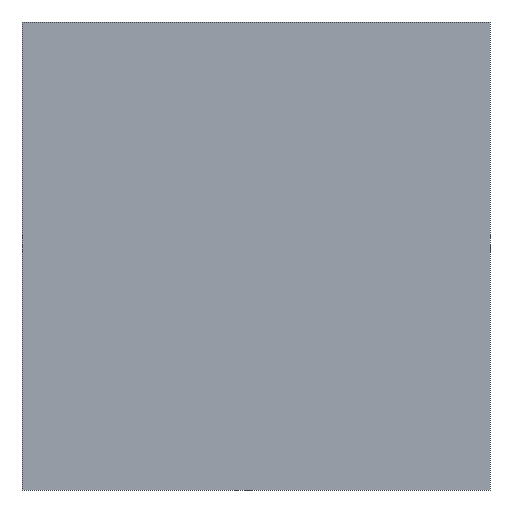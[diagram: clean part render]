
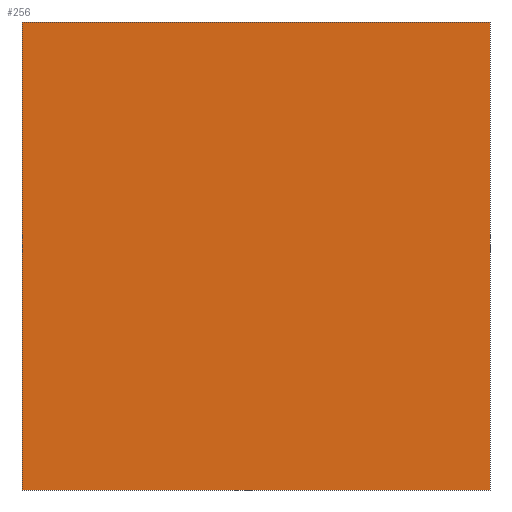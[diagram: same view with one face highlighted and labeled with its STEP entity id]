
A CAD part, front view. The second image highlights one B-rep face of the part: STEP entity #256.
In plain terms, the highlighted planar face has unit normal (0, -1, 0).
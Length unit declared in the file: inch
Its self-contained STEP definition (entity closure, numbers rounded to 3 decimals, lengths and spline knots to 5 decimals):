
#30=FACE_OUTER_BOUND('',#46,.T.);
#46=EDGE_LOOP('',(#223,#224,#225,#226));
#67=LINE('',#395,#99);
#71=LINE('',#403,#103);
#74=LINE('',#409,#106);
#77=LINE('',#414,#109);
#99=VECTOR('',#328,0.3937);
#103=VECTOR('',#334,0.3937);
#106=VECTOR('',#339,0.3937);
#109=VECTOR('',#344,0.3937);
#123=VERTEX_POINT('',#393);
#124=VERTEX_POINT('',#394);
#127=VERTEX_POINT('',#402);
#129=VERTEX_POINT('',#408);
#151=EDGE_CURVE('',#123,#124,#67,.T.);
#155=EDGE_CURVE('',#124,#127,#71,.T.);
#158=EDGE_CURVE('',#127,#129,#74,.T.);
#161=EDGE_CURVE('',#129,#123,#77,.T.);
#223=ORIENTED_EDGE('',*,*,#161,.T.);
#224=ORIENTED_EDGE('',*,*,#151,.T.);
#225=ORIENTED_EDGE('',*,*,#155,.T.);
#226=ORIENTED_EDGE('',*,*,#158,.T.);
#241=PLANE('',#285);
#256=ADVANCED_FACE('',(#30),#241,.F.);
#285=AXIS2_PLACEMENT_3D('',#417,#348,#349);
#328=DIRECTION('',(0.,0.,-1.));
#334=DIRECTION('',(1.,0.,0.));
#339=DIRECTION('',(0.,0.,1.));
#344=DIRECTION('',(-1.,0.,0.));
#348=DIRECTION('center_axis',(0.,1.,0.));
#349=DIRECTION('ref_axis',(1.,0.,0.));
#393=CARTESIAN_POINT('',(0.,0.,0.81));
#394=CARTESIAN_POINT('',(0.,0.,0.));
#395=CARTESIAN_POINT('',(0.,0.,0.81));
#402=CARTESIAN_POINT('',(0.81,0.,0.));
#403=CARTESIAN_POINT('',(0.,0.,0.));
#408=CARTESIAN_POINT('',(0.81,0.,0.81));
#409=CARTESIAN_POINT('',(0.81,0.,0.));
#414=CARTESIAN_POINT('',(0.81,0.,0.81));
#417=CARTESIAN_POINT('Origin',(0.405,0.,0.405));
